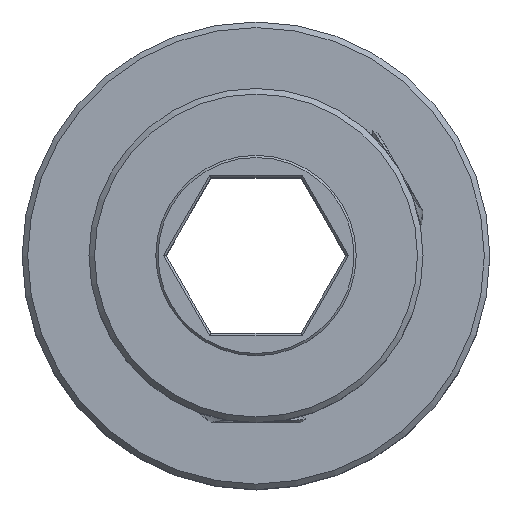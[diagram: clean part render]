
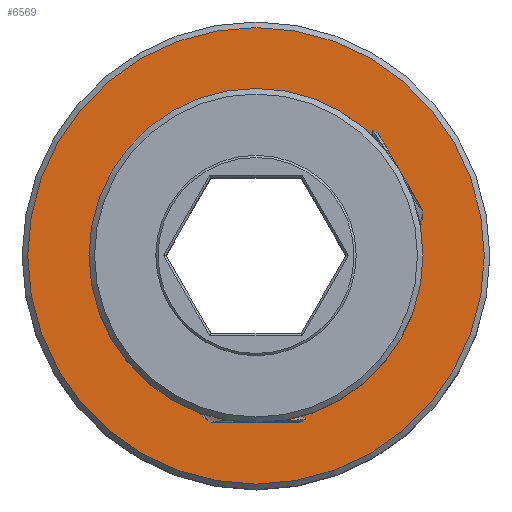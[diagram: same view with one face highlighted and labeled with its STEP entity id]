
A CAD part, top view. The second image highlights one B-rep face of the part: STEP entity #6569.
In plain terms, the highlighted planar face has unit normal (0, 0, 1).
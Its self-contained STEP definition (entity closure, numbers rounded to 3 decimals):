
#205=FACE_BOUND('',#828,.T.);
#260=PLANE('',#7060);
#424=FACE_OUTER_BOUND('',#827,.T.);
#827=EDGE_LOOP('',(#4810));
#828=EDGE_LOOP('',(#4811,#4812,#4813,#4814,#4815,#4816,#4817,#4818));
#1161=CIRCLE('',#7042,2.1);
#1163=CIRCLE('',#7045,6.6);
#1165=CIRCLE('',#7048,2.1);
#1167=CIRCLE('',#7052,2.1);
#1168=CIRCLE('',#7054,6.6);
#1169=CIRCLE('',#7056,2.1);
#1170=CIRCLE('',#7061,10.25);
#1767=LINE('',#22858,#2172);
#1773=LINE('',#22881,#2178);
#2172=VECTOR('',#8289,10.);
#2178=VECTOR('',#8315,10.);
#2644=VERTEX_POINT('',#22855);
#2645=VERTEX_POINT('',#22857);
#2647=VERTEX_POINT('',#22862);
#2649=VERTEX_POINT('',#22868);
#2651=VERTEX_POINT('',#22874);
#2652=VERTEX_POINT('',#22879);
#2653=VERTEX_POINT('',#22884);
#2654=VERTEX_POINT('',#22888);
#2655=VERTEX_POINT('',#22900);
#3424=EDGE_CURVE('',#2644,#2645,#1767,.T.);
#3427=EDGE_CURVE('',#2647,#2644,#1161,.T.);
#3430=EDGE_CURVE('',#2649,#2647,#1163,.T.);
#3433=EDGE_CURVE('',#2651,#2649,#1165,.T.);
#3436=EDGE_CURVE('',#2652,#2651,#1773,.T.);
#3439=EDGE_CURVE('',#2653,#2652,#1167,.T.);
#3441=EDGE_CURVE('',#2654,#2653,#1168,.T.);
#3442=EDGE_CURVE('',#2645,#2654,#1169,.T.);
#3446=EDGE_CURVE('',#2655,#2655,#1170,.T.);
#4810=ORIENTED_EDGE('',*,*,#3446,.F.);
#4811=ORIENTED_EDGE('',*,*,#3424,.F.);
#4812=ORIENTED_EDGE('',*,*,#3427,.F.);
#4813=ORIENTED_EDGE('',*,*,#3430,.F.);
#4814=ORIENTED_EDGE('',*,*,#3433,.F.);
#4815=ORIENTED_EDGE('',*,*,#3436,.F.);
#4816=ORIENTED_EDGE('',*,*,#3439,.F.);
#4817=ORIENTED_EDGE('',*,*,#3441,.F.);
#4818=ORIENTED_EDGE('',*,*,#3442,.F.);
#6569=ADVANCED_FACE('',(#424,#205),#260,.T.);
#7042=AXIS2_PLACEMENT_3D('',#22864,#8294,#8295);
#7045=AXIS2_PLACEMENT_3D('',#22870,#8301,#8302);
#7048=AXIS2_PLACEMENT_3D('',#22876,#8308,#8309);
#7052=AXIS2_PLACEMENT_3D('',#22886,#8320,#8321);
#7054=AXIS2_PLACEMENT_3D('',#22890,#8325,#8326);
#7056=AXIS2_PLACEMENT_3D('',#22892,#8329,#8330);
#7060=AXIS2_PLACEMENT_3D('',#22899,#8340,#8341);
#7061=AXIS2_PLACEMENT_3D('',#22901,#8342,#8343);
#8289=DIRECTION('',(1.,0.,0.));
#8294=DIRECTION('center_axis',(0.,0.,
1.));
#8295=DIRECTION('ref_axis',(0.,-1.,0.));
#8301=DIRECTION('center_axis',(0.,0.,
1.));
#8302=DIRECTION('ref_axis',(-1.,0.,0.));
#8308=DIRECTION('center_axis',(0.,0.,
1.));
#8309=DIRECTION('ref_axis',(-0.458,0.889,0.));
#8315=DIRECTION('',(-1.,0.,0.));
#8320=DIRECTION('center_axis',(0.,0.,
1.));
#8321=DIRECTION('ref_axis',(0.,1.,0.));
#8325=DIRECTION('center_axis',(0.,0.,
1.));
#8326=DIRECTION('ref_axis',(1.,0.,0.));
#8329=DIRECTION('center_axis',(0.,0.,
1.));
#8330=DIRECTION('ref_axis',(0.458,-0.889,0.));
#8340=DIRECTION('center_axis',(0.,0.,
1.));
#8341=DIRECTION('ref_axis',(0.,-1.,0.));
#8342=DIRECTION('center_axis',(0.,0.,
-1.));
#8343=DIRECTION('ref_axis',(-1.,0.,0.));
#22855=CARTESIAN_POINT('',(-2.062,-6.1,9.));
#22857=CARTESIAN_POINT('',(2.062,-6.1,9.));
#22858=CARTESIAN_POINT('',(6.281,-6.1,9.));
#22862=CARTESIAN_POINT('',(-3.024,-5.867,9.));
#22864=CARTESIAN_POINT('Origin',(-2.062,-4.,9.));
#22868=CARTESIAN_POINT('',(-3.024,5.867,9.));
#22870=CARTESIAN_POINT('Origin',(0.,0.,
9.));
#22874=CARTESIAN_POINT('',(-2.062,6.1,9.));
#22876=CARTESIAN_POINT('Origin',(-2.062,4.,9.));
#22879=CARTESIAN_POINT('',(2.062,6.1,9.));
#22881=CARTESIAN_POINT('',(4.219,6.1,9.));
#22884=CARTESIAN_POINT('',(3.024,5.867,9.));
#22886=CARTESIAN_POINT('Origin',(2.062,4.,9.));
#22888=CARTESIAN_POINT('',(3.024,-5.867,9.));
#22890=CARTESIAN_POINT('Origin',(0.,0.,
9.));
#22892=CARTESIAN_POINT('Origin',(2.062,-4.,9.));
#22899=CARTESIAN_POINT('Origin',(10.5,0.,9.));
#22900=CARTESIAN_POINT('',(10.25,0.,9.));
#22901=CARTESIAN_POINT('Origin',(0.,0.,
9.));
